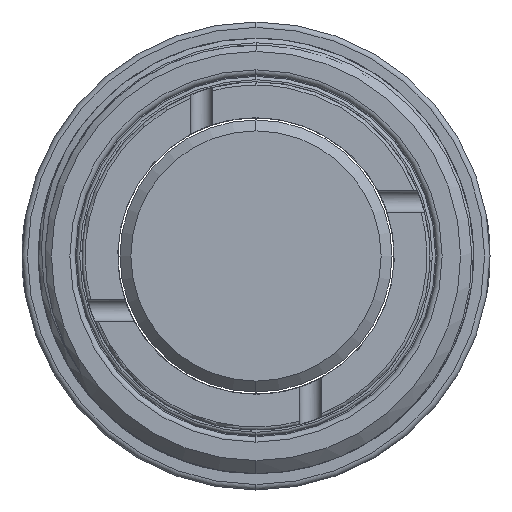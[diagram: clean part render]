
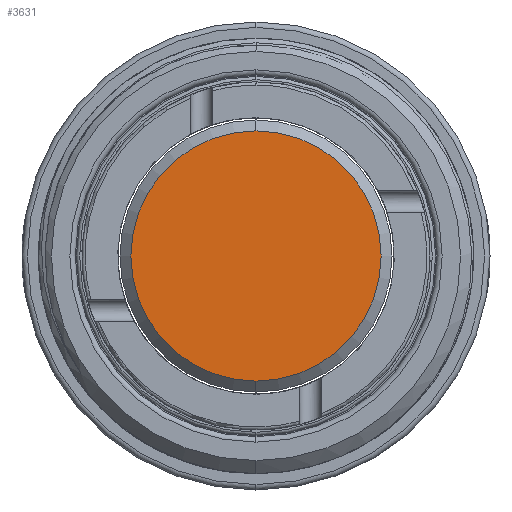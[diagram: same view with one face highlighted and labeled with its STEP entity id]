
A CAD part, left-side view. The second image highlights one B-rep face of the part: STEP entity #3631.
In plain terms, the highlighted planar face has unit normal (-1, 0, 0).
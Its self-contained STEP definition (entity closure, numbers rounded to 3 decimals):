
#178 = DIRECTION ( 'NONE',  ( 0., 0., 1. ) ) ;
#206 = CIRCLE ( 'NONE', #4885, 11.5 ) ;
#603 = EDGE_CURVE ( 'NONE', #2017, #2573, #206, .T. ) ;
#1719 = CARTESIAN_POINT ( 'NONE',  ( -10., 0., 0. ) ) ;
#1869 = PLANE ( 'NONE',  #2616 ) ;
#1935 = DIRECTION ( 'NONE',  ( -1., 0., 0. ) ) ;
#1955 = EDGE_LOOP ( 'NONE', ( #5461, #2646 ) ) ;
#2017 = VERTEX_POINT ( 'NONE', #2745 ) ;
#2121 = FACE_OUTER_BOUND ( 'NONE', #1955, .T. ) ;
#2393 = CARTESIAN_POINT ( 'NONE',  ( -10., 0., 0. ) ) ;
#2468 = DIRECTION ( 'NONE',  ( 0., 0., 1. ) ) ;
#2573 = VERTEX_POINT ( 'NONE', #4303 ) ;
#2616 = AXIS2_PLACEMENT_3D ( 'NONE', #2393, #1935, #2468 ) ;
#2646 = ORIENTED_EDGE ( 'NONE', *, *, #4966, .T. ) ;
#2745 = CARTESIAN_POINT ( 'NONE',  ( -10., 0., -11.5 ) ) ;
#2844 = CARTESIAN_POINT ( 'NONE',  ( -10., 0., 0. ) ) ;
#2933 = CIRCLE ( 'NONE', #3683, 11.5 ) ;
#3310 = DIRECTION ( 'NONE',  ( 0., 0., 1. ) ) ;
#3631 = ADVANCED_FACE ( 'NONE', ( #2121 ), #1869, .T. ) ;
#3683 = AXIS2_PLACEMENT_3D ( 'NONE', #1719, #6495, #3310 ) ;
#4303 = CARTESIAN_POINT ( 'NONE',  ( -10., 0., 11.5 ) ) ;
#4885 = AXIS2_PLACEMENT_3D ( 'NONE', #2844, #5389, #178 ) ;
#4966 = EDGE_CURVE ( 'NONE', #2573, #2017, #2933, .T. ) ;
#5389 = DIRECTION ( 'NONE',  ( -1., 0., 0. ) ) ;
#5461 = ORIENTED_EDGE ( 'NONE', *, *, #603, .T. ) ;
#6495 = DIRECTION ( 'NONE',  ( -1., 0., 0. ) ) ;
